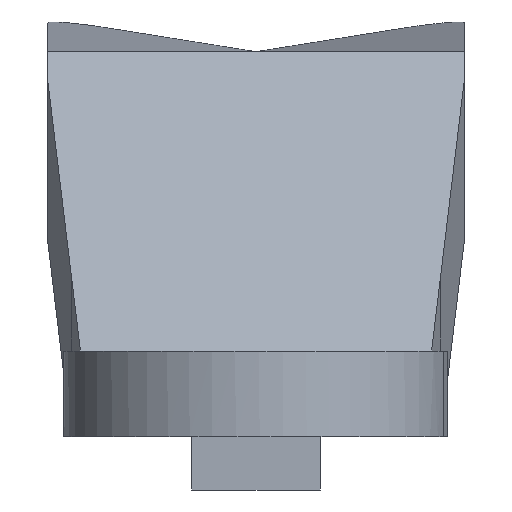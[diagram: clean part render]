
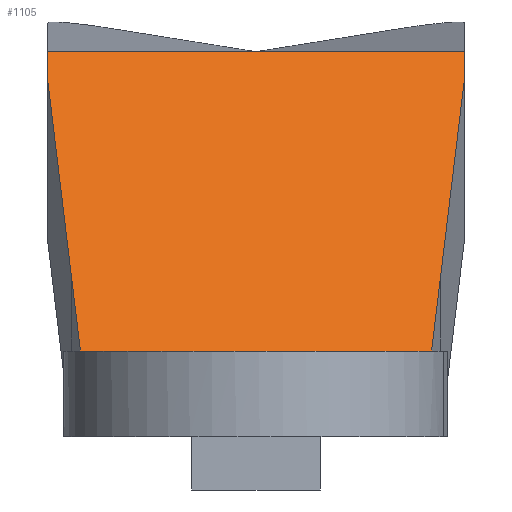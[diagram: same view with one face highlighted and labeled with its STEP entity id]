
A CAD part, left-side view. The second image highlights one B-rep face of the part: STEP entity #1105.
In plain terms, the highlighted planar face has unit normal (-0.847, 0, 0.532).
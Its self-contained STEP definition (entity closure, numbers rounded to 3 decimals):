
#21 = EDGE_CURVE ( 'NONE', #735, #741, #55, .T. ) ;
#25 = CARTESIAN_POINT ( 'NONE',  ( 22.025, -9.75, 17.581 ) ) ;
#26 = CARTESIAN_POINT ( 'NONE',  ( 22.288, 9.75, 18. ) ) ;
#55 = B_SPLINE_CURVE_WITH_KNOTS ( 'NONE', 3,
 ( #630, #816, #1085, #913 ),
 .UNSPECIFIED., .F., .F.,
 ( 4, 4 ),
 ( 0., 1. ),
 .UNSPECIFIED. ) ;
#69 = CARTESIAN_POINT ( 'NONE',  ( 17.641, 9.008, 10.597 ) ) ;
#93 = ORIENTED_EDGE ( 'NONE', *, *, #21, .F. ) ;
#119 = ORIENTED_EDGE ( 'NONE', *, *, #1010, .T. ) ;
#139 = B_SPLINE_CURVE_WITH_KNOTS ( 'NONE', 3,
 ( #217, #492, #25, #704 ),
 .UNSPECIFIED., .F., .F.,
 ( 4, 4 ),
 ( 0., 1. ),
 .UNSPECIFIED. ) ;
#161 = CARTESIAN_POINT ( 'NONE',  ( 13.5, 2.737, 4. ) ) ;
#165 = CARTESIAN_POINT ( 'NONE',  ( 21.5, 9.75, 16.744 ) ) ;
#174 = B_SPLINE_CURVE_WITH_KNOTS ( 'NONE', 3,
 ( #644, #1002, #185, #1095 ),
 .UNSPECIFIED., .F., .F.,
 ( 4, 4 ),
 ( 0., 1. ),
 .UNSPECIFIED. ) ;
#185 = CARTESIAN_POINT ( 'NONE',  ( 14.975, 8.495, 6.349 ) ) ;
#213 = EDGE_CURVE ( 'NONE', #735, #661, #362, .T. ) ;
#217 = CARTESIAN_POINT ( 'NONE',  ( 21.5, -9.75, 16.744 ) ) ;
#233 = B_SPLINE_CURVE_WITH_KNOTS ( 'NONE', 3,
 ( #26, #310, #1127, #673 ),
 .UNSPECIFIED., .F., .F.,
 ( 4, 4 ),
 ( 0., 1. ),
 .UNSPECIFIED. ) ;
#235 = FACE_OUTER_BOUND ( 'NONE', #270, .T. ) ;
#270 = EDGE_LOOP ( 'NONE', ( #93, #856, #971, #119, #1136, #1141, #652, #897 ) ) ;
#309 = CARTESIAN_POINT ( 'NONE',  ( 22.288, -9.75, 18. ) ) ;
#310 = CARTESIAN_POINT ( 'NONE',  ( 22.025, 9.75, 17.581 ) ) ;
#357 = CARTESIAN_POINT ( 'NONE',  ( 15.712, 8.637, 7.524 ) ) ;
#362 = B_SPLINE_CURVE_WITH_KNOTS ( 'NONE', 3,
 ( #875, #778, #519, #804 ),
 .UNSPECIFIED., .F., .F.,
 ( 4, 4 ),
 ( 0., 1. ),
 .UNSPECIFIED. ) ;
#404 = CARTESIAN_POINT ( 'NONE',  ( 22.288, 3.25, 18. ) ) ;
#405 = CARTESIAN_POINT ( 'NONE',  ( 15.712, -8.637, 7.524 ) ) ;
#440 = DIRECTION ( 'NONE',  ( -0.847, 0., 0.532 ) ) ;
#441 = CARTESIAN_POINT ( 'NONE',  ( 13.5, 8.212, 4. ) ) ;
#442 = VERTEX_POINT ( 'NONE', #787 ) ;
#443 = CARTESIAN_POINT ( 'NONE',  ( 15.712, 8.637, 7.524 ) ) ;
#480 = EDGE_CURVE ( 'NONE', #1060, #867, #835, .T. ) ;
#492 = CARTESIAN_POINT ( 'NONE',  ( 21.763, -9.75, 17.163 ) ) ;
#519 = CARTESIAN_POINT ( 'NONE',  ( 19.571, -9.379, 13.671 ) ) ;
#532 = CARTESIAN_POINT ( 'NONE',  ( 19.571, 9.379, 13.671 ) ) ;
#630 = CARTESIAN_POINT ( 'NONE',  ( 15.712, -8.637, 7.524 ) ) ;
#631 = B_SPLINE_CURVE_WITH_KNOTS ( 'NONE', 3,
 ( #1133, #677, #404, #1044 ),
 .UNSPECIFIED., .F., .F.,
 ( 4, 4 ),
 ( 0., 1. ),
 .UNSPECIFIED. ) ;
#644 = CARTESIAN_POINT ( 'NONE',  ( 13.5, 8.212, 4. ) ) ;
#652 = ORIENTED_EDGE ( 'NONE', *, *, #671, .F. ) ;
#661 = VERTEX_POINT ( 'NONE', #828 ) ;
#671 = EDGE_CURVE ( 'NONE', #442, #867, #174, .T. ) ;
#673 = CARTESIAN_POINT ( 'NONE',  ( 21.5, 9.75, 16.744 ) ) ;
#677 = CARTESIAN_POINT ( 'NONE',  ( 22.288, -3.25, 18. ) ) ;
#684 = PLANE ( 'NONE',  #1191 ) ;
#702 = EDGE_CURVE ( 'NONE', #905, #1060, #233, .T. ) ;
#704 = CARTESIAN_POINT ( 'NONE',  ( 22.288, -9.75, 18. ) ) ;
#717 = CARTESIAN_POINT ( 'NONE',  ( 22.288, 9.75, 18. ) ) ;
#735 = VERTEX_POINT ( 'NONE', #405 ) ;
#741 = VERTEX_POINT ( 'NONE', #1040 ) ;
#778 = CARTESIAN_POINT ( 'NONE',  ( 17.641, -9.008, 10.597 ) ) ;
#787 = CARTESIAN_POINT ( 'NONE',  ( 13.5, 8.212, 4. ) ) ;
#798 = CARTESIAN_POINT ( 'NONE',  ( 17.894, 15., 11. ) ) ;
#804 = CARTESIAN_POINT ( 'NONE',  ( 21.5, -9.75, 16.744 ) ) ;
#816 = CARTESIAN_POINT ( 'NONE',  ( 14.975, -8.495, 6.349 ) ) ;
#828 = CARTESIAN_POINT ( 'NONE',  ( 21.5, -9.75, 16.744 ) ) ;
#835 = B_SPLINE_CURVE_WITH_KNOTS ( 'NONE', 3,
 ( #165, #532, #69, #443 ),
 .UNSPECIFIED., .F., .F.,
 ( 4, 4 ),
 ( 0., 1. ),
 .UNSPECIFIED. ) ;
#854 = EDGE_CURVE ( 'NONE', #741, #442, #1170, .T. ) ;
#856 = ORIENTED_EDGE ( 'NONE', *, *, #213, .T. ) ;
#867 = VERTEX_POINT ( 'NONE', #357 ) ;
#875 = CARTESIAN_POINT ( 'NONE',  ( 15.712, -8.637, 7.524 ) ) ;
#897 = ORIENTED_EDGE ( 'NONE', *, *, #854, .F. ) ;
#902 = DIRECTION ( 'NONE',  ( 0., 1., 0. ) ) ;
#905 = VERTEX_POINT ( 'NONE', #717 ) ;
#913 = CARTESIAN_POINT ( 'NONE',  ( 13.5, -8.212, 4. ) ) ;
#971 = ORIENTED_EDGE ( 'NONE', *, *, #1082, .T. ) ;
#980 = CARTESIAN_POINT ( 'NONE',  ( 13.5, -8.212, 4. ) ) ;
#1002 = CARTESIAN_POINT ( 'NONE',  ( 14.237, 8.353, 5.175 ) ) ;
#1010 = EDGE_CURVE ( 'NONE', #1087, #905, #631, .T. ) ;
#1040 = CARTESIAN_POINT ( 'NONE',  ( 13.5, -8.212, 4. ) ) ;
#1044 = CARTESIAN_POINT ( 'NONE',  ( 22.288, 9.75, 18. ) ) ;
#1059 = CARTESIAN_POINT ( 'NONE',  ( 13.5, -2.737, 4. ) ) ;
#1060 = VERTEX_POINT ( 'NONE', #1119 ) ;
#1082 = EDGE_CURVE ( 'NONE', #661, #1087, #139, .T. ) ;
#1085 = CARTESIAN_POINT ( 'NONE',  ( 14.237, -8.353, 5.175 ) ) ;
#1087 = VERTEX_POINT ( 'NONE', #309 ) ;
#1095 = CARTESIAN_POINT ( 'NONE',  ( 15.712, 8.637, 7.524 ) ) ;
#1105 = ADVANCED_FACE ( 'NONE', ( #235 ), #684, .T. ) ;
#1119 = CARTESIAN_POINT ( 'NONE',  ( 21.5, 9.75, 16.744 ) ) ;
#1127 = CARTESIAN_POINT ( 'NONE',  ( 21.763, 9.75, 17.163 ) ) ;
#1133 = CARTESIAN_POINT ( 'NONE',  ( 22.288, -9.75, 18. ) ) ;
#1136 = ORIENTED_EDGE ( 'NONE', *, *, #702, .T. ) ;
#1141 = ORIENTED_EDGE ( 'NONE', *, *, #480, .T. ) ;
#1170 = B_SPLINE_CURVE_WITH_KNOTS ( 'NONE', 3,
 ( #980, #1059, #161, #441 ),
 .UNSPECIFIED., .F., .F.,
 ( 4, 4 ),
 ( 0., 1. ),
 .UNSPECIFIED. ) ;
#1191 = AXIS2_PLACEMENT_3D ( 'NONE', #798, #440, #902 ) ;
